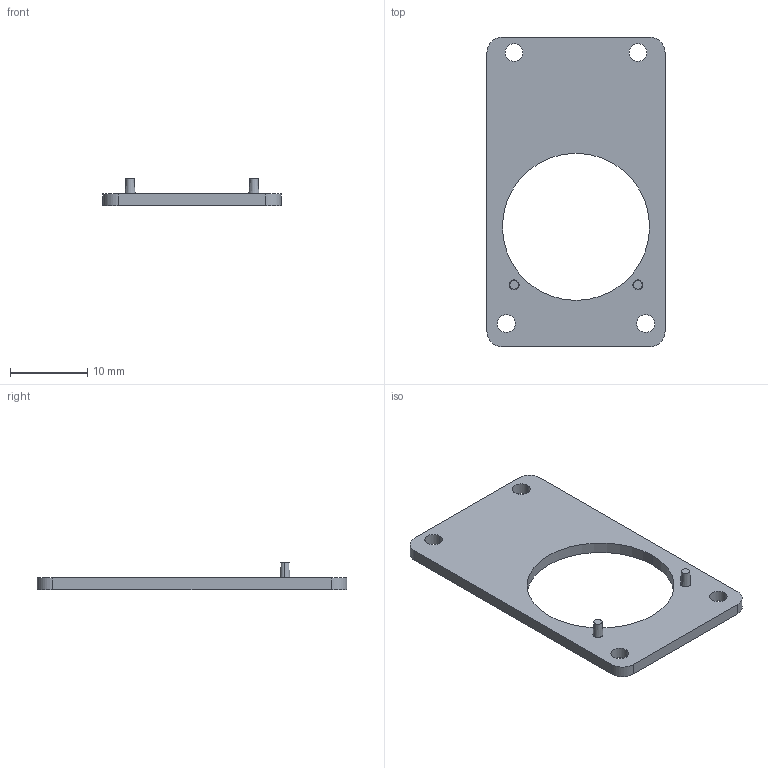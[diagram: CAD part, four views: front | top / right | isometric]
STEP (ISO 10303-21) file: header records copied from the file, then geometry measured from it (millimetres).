
FILE_DESCRIPTION (( 'STEP AP203' ), '1' );
FILE_NAME ('bearing_roll_粣創幗謫-FT.STEP', '2026-09-12T00:59:13', ( '' ), ( '' ), 'SwSTEP 2.0', 'SolidWorks 2021', '' );
FILE_SCHEMA (( 'CONFIG_CONTROL_DESIGN' ));
Length unit declared in the file: millimetre
Products named in the file (1): bearing_roll_粣創幗謫-FT
Bounding box: 23 x 40 x 3.5 mm (x, y, z)
Volume: 929.2 mm3; surface area: 1563.9 mm2
Topology: 1 solids, 1 shells, 26 faces, 66 edges, 44 vertices
Faces by surface type: cylinder 14, plane 8, cone 4
Entity records: 903 total; most frequent: DIRECTION 156, CARTESIAN_POINT 137, ORIENTED_EDGE 132, EDGE_CURVE 66, AXIS2_PLACEMENT_3D 63, VERTEX_POINT 44, EDGE_LOOP 38, CIRCLE 36
